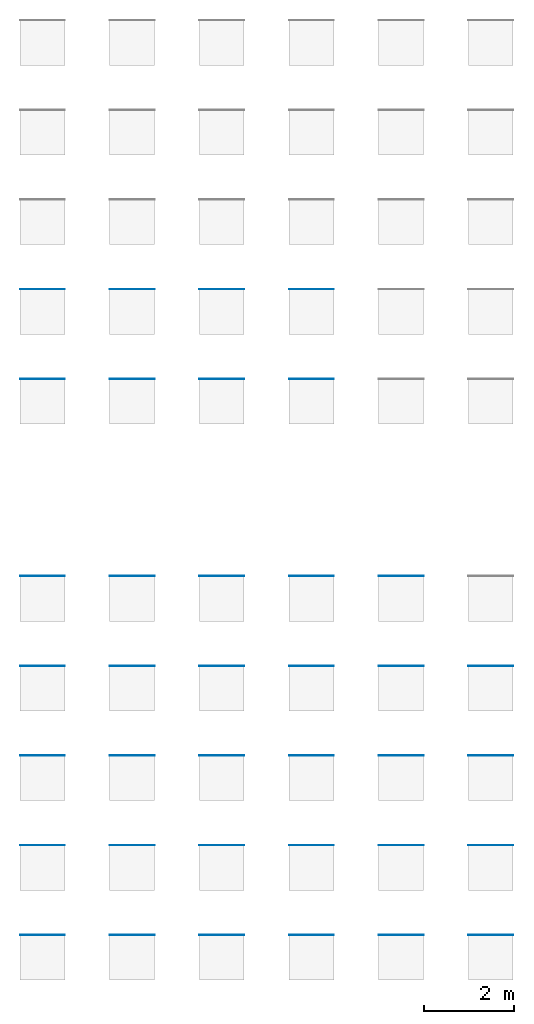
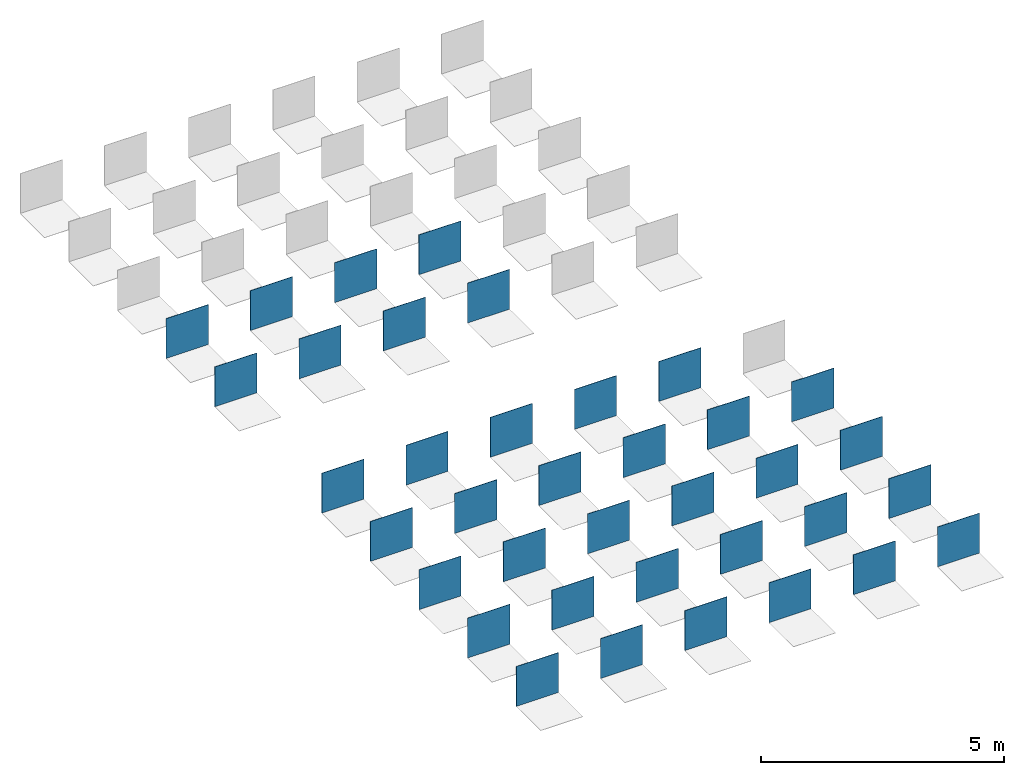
# One storey, part 1 of 4: 37 walls.
"""IFC2X3 building model written with IfcOpenShell, lengths in millimetres."""

from ifc_helpers import new_model, entity, si_unit, converted_unit, derived_unit, direction, frame, frame_2d, origin, place, context, subcontext, project, spatial, rectangle, extrude, material, layer, layer_set, layer_usage, type_object, element, save


model = new_model("IFC2X3")

# Units and contexts
model_context = context("Model", 3, precision=0.01, world=origin(), true_north=direction((6.12303176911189e-17, 1.0)))
body_context = subcontext(model_context, "Body", "Model", "MODEL_VIEW")
ifc_project = project(units=[si_unit("LENGTHUNIT", "METRE", prefix="MILLI"), si_unit("AREAUNIT", "SQUARE_METRE"), si_unit("VOLUMEUNIT", "CUBIC_METRE"), converted_unit("PLANEANGLEUNIT", "DEGREE", entity("IfcRatioMeasure", 0.0174532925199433), si_unit("PLANEANGLEUNIT", "RADIAN"), dimensions=[0, 0, 0, 0, 0, 0, 0]), si_unit("MASSUNIT", "GRAM", prefix="KILO"), derived_unit("MASSDENSITYUNIT", [(si_unit("MASSUNIT", "GRAM", prefix="KILO"), 1), (si_unit("LENGTHUNIT", "METRE"), -3)]), derived_unit("MOMENTOFINERTIAUNIT", [(si_unit("LENGTHUNIT", "METRE"), 4)]), si_unit("TIMEUNIT", "SECOND"), si_unit("FREQUENCYUNIT", "HERTZ"), si_unit("THERMODYNAMICTEMPERATUREUNIT", "DEGREE_CELSIUS"), derived_unit("THERMALTRANSMITTANCEUNIT", [(si_unit("MASSUNIT", "GRAM", prefix="KILO"), 1), (si_unit("THERMODYNAMICTEMPERATUREUNIT", "KELVIN"), -1), (si_unit("TIMEUNIT", "SECOND"), -3)]), derived_unit("VOLUMETRICFLOWRATEUNIT", [(si_unit("LENGTHUNIT", "METRE"), 3), (si_unit("TIMEUNIT", "SECOND"), -1)]), si_unit("ELECTRICCURRENTUNIT", "AMPERE"), si_unit("ELECTRICVOLTAGEUNIT", "VOLT"), si_unit("POWERUNIT", "WATT"), si_unit("FORCEUNIT", "NEWTON", prefix="KILO"), si_unit("ILLUMINANCEUNIT", "LUX"), si_unit("LUMINOUSFLUXUNIT", "LUMEN"), si_unit("LUMINOUSINTENSITYUNIT", "CANDELA"), derived_unit("USERDEFINED", [(si_unit("MASSUNIT", "GRAM", prefix="KILO"), -1), (si_unit("LENGTHUNIT", "METRE"), -2), (si_unit("TIMEUNIT", "SECOND"), 3), (si_unit("LUMINOUSFLUXUNIT", "LUMEN"), 1)]), derived_unit("LINEARVELOCITYUNIT", [(si_unit("LENGTHUNIT", "METRE"), 1), (si_unit("TIMEUNIT", "SECOND"), -1)]), si_unit("PRESSUREUNIT", "PASCAL"), derived_unit("USERDEFINED", [(si_unit("LENGTHUNIT", "METRE"), -2), (si_unit("MASSUNIT", "GRAM", prefix="KILO"), 1), (si_unit("TIMEUNIT", "SECOND"), -2)]), derived_unit("LINEARFORCEUNIT", [(si_unit("MASSUNIT", "GRAM", prefix="KILO"), 1), (si_unit("LENGTHUNIT", "METRE"), 1), (si_unit("TIMEUNIT", "SECOND"), -2), (si_unit("LENGTHUNIT", "METRE"), -1)]), derived_unit("PLANARFORCEUNIT", [(si_unit("MASSUNIT", "GRAM", prefix="KILO"), 1), (si_unit("LENGTHUNIT", "METRE"), 1), (si_unit("TIMEUNIT", "SECOND"), -2), (si_unit("LENGTHUNIT", "METRE"), -2)])], contexts=[model_context])

# Site, building, storey
site_placement = place(None, origin())
site = spatial("IfcSite", under=ifc_project, at=site_placement, Name="Default", CompositionType="ELEMENT")
building_placement = place(site_placement, origin())
building = spatial("IfcBuilding", under=site, at=building_placement, CompositionType="ELEMENT")
storey_placement = place(building_placement, origin())
storey = spatial("IfcBuildingStorey", under=building, at=storey_placement, Name="Level 1", CompositionType="ELEMENT", Elevation=0.0)

# Walls
ifc_material_1 = material(Name="REVIGRÉS-OMNISTONE-BASE-30x60-MATTRECT-BONE")
ifc_layer_1 = layer(ifc_material_1, 9.8)
ifc_layer_set_1 = layer_set([ifc_layer_1], Name="Basic Wall:REVIGRÉS-OMNISTONE-BASE-30X60-MATTRECT-BONE")
ifc_layer_usage_1 = layer_usage(ifc_layer_set_1, "AXIS2", "POSITIVE", -4.9)
wall_type_1 = type_object("IfcWallType", Name="Basic Wall:REVIGRÉS-OMNISTONE-BASE-30X60-MATTRECT-BONE", PredefinedType="STANDARD", material=ifc_layer_set_1)
wall_1_placement = place(storey_placement, frame((8.22388438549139, 10816.1034685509, 0.0)))
element("IfcWallStandardCase", 1, at=wall_1_placement, inside=storey, type_object=wall_type_1, material=ifc_layer_usage_1, Name="Basic Wall:REVIGRÉS-OMNISTONE-BASE-30X60-MATTRECT-BONE:2654", ObjectType="Basic Wall:REVIGRÉS-OMNISTONE-BASE-30X60-MATTRECT-BONE", context=body_context, shape_type="SweptSolid", body=[
    extrude(rectangle(XDim=1000.0, YDim=9.8000000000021, at=frame_2d((500.0, 5.41344746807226e-13), x_axis=(-1.0, 0.0))), origin(), (0.0, 0.0, 1.0), 1000.0),
])
ifc_material_2 = material(Name="REVIGRÉS-OMNISTONE-BASE-60x60-MATTRECT-BONE")
ifc_layer_2 = layer(ifc_material_2, 9.8)
ifc_layer_set_2 = layer_set([ifc_layer_2], Name="Basic Wall:REVIGRÉS-OMNISTONE-BASE-60X60-MATTRECT-BONE")
ifc_layer_usage_2 = layer_usage(ifc_layer_set_2, "AXIS2", "POSITIVE", -4.9)
wall_type_2 = type_object("IfcWallType", Name="Basic Wall:REVIGRÉS-OMNISTONE-BASE-60X60-MATTRECT-BONE", PredefinedType="STANDARD", material=ifc_layer_set_2)
wall_2_placement = place(storey_placement, frame((8.22388438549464, 12816.1034685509, 0.0)))
element("IfcWallStandardCase", 2, at=wall_2_placement, inside=storey, type_object=wall_type_2, material=ifc_layer_usage_2, Name="Basic Wall:REVIGRÉS-OMNISTONE-BASE-60X60-MATTRECT-BONE", ObjectType="Basic Wall:REVIGRÉS-OMNISTONE-BASE-60X60-MATTRECT-BONE", context=body_context, shape_type="SweptSolid", body=[
    extrude(rectangle(XDim=1000.0, YDim=9.8000000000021, at=frame_2d((500.0, 5.41344746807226e-13), x_axis=(-1.0, 0.0))), origin(), (0.0, 0.0, 1.0), 1000.0),
])
ifc_material_3 = material(Name="REVIGRÉS-OMNISTONE-BASE-30x60-SOFT-BONE")
ifc_layer_3 = layer(ifc_material_3, 9.8)
ifc_layer_set_3 = layer_set([ifc_layer_3], Name="Basic Wall:REVIGRÉS-OMNISTONE-BASE-30X60-SOFT-BONE")
ifc_layer_usage_3 = layer_usage(ifc_layer_set_3, "AXIS2", "POSITIVE", -4.9)
wall_type_3 = type_object("IfcWallType", Name="Basic Wall:REVIGRÉS-OMNISTONE-BASE-30X60-SOFT-BONE", PredefinedType="STANDARD", material=ifc_layer_set_3)
wall_3_placement = place(storey_placement, frame((2008.2238843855, 10816.1034685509, 0.0)))
element("IfcWallStandardCase", 3, at=wall_3_placement, inside=storey, type_object=wall_type_3, material=ifc_layer_usage_3, Name="Basic Wall:REVIGRÉS-OMNISTONE-BASE-30X60-SOFT-BONE", ObjectType="Basic Wall:REVIGRÉS-OMNISTONE-BASE-30X60-SOFT-BONE", context=body_context, shape_type="SweptSolid", body=[
    extrude(rectangle(XDim=1000.0, YDim=9.8000000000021, at=frame_2d((500.0, 5.41344746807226e-13), x_axis=(-1.0, 0.0))), origin(), (0.0, 0.0, 1.0), 1000.0),
])
ifc_material_4 = material(Name="REVIGRÉS-OMNISTONE-BASE-60x60-SOFT-BONE")
ifc_layer_4 = layer(ifc_material_4, 9.8)
ifc_layer_set_4 = layer_set([ifc_layer_4], Name="Basic Wall:REVIGRÉS-OMNISTONE-BASE-60X60-SOFT-BONE")
ifc_layer_usage_4 = layer_usage(ifc_layer_set_4, "AXIS2", "POSITIVE", -4.9)
wall_type_4 = type_object("IfcWallType", Name="Basic Wall:REVIGRÉS-OMNISTONE-BASE-60X60-SOFT-BONE", PredefinedType="STANDARD", material=ifc_layer_set_4)
wall_4_placement = place(storey_placement, frame((2008.22388438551, 12816.1034685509, 0.0)))
element("IfcWallStandardCase", 4, at=wall_4_placement, inside=storey, type_object=wall_type_4, material=ifc_layer_usage_4, Name="Basic Wall:REVIGRÉS-OMNISTONE-BASE-60X60-SOFT-BONE", ObjectType="Basic Wall:REVIGRÉS-OMNISTONE-BASE-60X60-SOFT-BONE", context=body_context, shape_type="SweptSolid", body=[
    extrude(rectangle(XDim=1000.0, YDim=9.8000000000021, at=frame_2d((500.0, 5.41344746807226e-13), x_axis=(-1.0, 0.0))), origin(), (0.0, 0.0, 1.0), 1000.0),
])
ifc_material_5 = material(Name="REVIGRÉS-OMNISTONE-BASE-30x60-MATTRECT-ICE")
ifc_layer_5 = layer(ifc_material_5, 9.8)
ifc_layer_set_5 = layer_set([ifc_layer_5], Name="Basic Wall:REVIGRÉS-OMNISTONE-BASE-30X60-MATTRECT-ICE")
ifc_layer_usage_5 = layer_usage(ifc_layer_set_5, "AXIS2", "POSITIVE", -4.9)
wall_type_5 = type_object("IfcWallType", Name="Basic Wall:REVIGRÉS-OMNISTONE-BASE-30X60-MATTRECT-ICE", PredefinedType="STANDARD", material=ifc_layer_set_5)
wall_5_placement = place(storey_placement, frame((4008.2238843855, 10816.1034685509, 0.0)))
element("IfcWallStandardCase", 5, at=wall_5_placement, inside=storey, type_object=wall_type_5, material=ifc_layer_usage_5, Name="Basic Wall:REVIGRÉS-OMNISTONE-BASE-30X60-MATTRECT-ICE", ObjectType="Basic Wall:REVIGRÉS-OMNISTONE-BASE-30X60-MATTRECT-ICE", context=body_context, shape_type="SweptSolid", body=[
    extrude(rectangle(XDim=1000.0, YDim=9.8000000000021, at=frame_2d((500.0, 5.41344746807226e-13), x_axis=(-1.0, 0.0))), origin(), (0.0, 0.0, 1.0), 1000.0),
])
ifc_material_6 = material(Name="REVIGRÉS-OMNISTONE-BASE-60x60-MATTRECT-ICE")
ifc_layer_6 = layer(ifc_material_6, 9.8)
ifc_layer_set_6 = layer_set([ifc_layer_6], Name="Basic Wall:REVIGRÉS-OMNISTONE-BASE-60X60-MATTRECT-ICE")
ifc_layer_usage_6 = layer_usage(ifc_layer_set_6, "AXIS2", "POSITIVE", -4.9)
wall_type_6 = type_object("IfcWallType", Name="Basic Wall:REVIGRÉS-OMNISTONE-BASE-60X60-MATTRECT-ICE", PredefinedType="STANDARD", material=ifc_layer_set_6)
wall_6_placement = place(storey_placement, frame((4008.22388438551, 12816.1034685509, 0.0)))
element("IfcWallStandardCase", 6, at=wall_6_placement, inside=storey, type_object=wall_type_6, material=ifc_layer_usage_6, Name="Basic Wall:REVIGRÉS-OMNISTONE-BASE-60X60-MATTRECT-ICE", ObjectType="Basic Wall:REVIGRÉS-OMNISTONE-BASE-60X60-MATTRECT-ICE", context=body_context, shape_type="SweptSolid", body=[
    extrude(rectangle(XDim=1000.0, YDim=9.8000000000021, at=frame_2d((500.0, 5.41344746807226e-13), x_axis=(-1.0, 0.0))), origin(), (0.0, 0.0, 1.0), 1000.0),
])
ifc_material_7 = material(Name="REVIGRÉS-OMNISTONE-BASE-30x60-SOFT-ICE")
ifc_layer_7 = layer(ifc_material_7, 9.8)
ifc_layer_set_7 = layer_set([ifc_layer_7], Name="Basic Wall:REVIGRÉS-OMNISTONE-BASE-30X60-SOFT-ICE")
ifc_layer_usage_7 = layer_usage(ifc_layer_set_7, "AXIS2", "POSITIVE", -4.9)
wall_type_7 = type_object("IfcWallType", Name="Basic Wall:REVIGRÉS-OMNISTONE-BASE-30X60-SOFT-ICE", PredefinedType="STANDARD", material=ifc_layer_set_7)
wall_7_placement = place(storey_placement, frame((6008.22388438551, 10816.1034685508, 0.0)))
element("IfcWallStandardCase", 7, at=wall_7_placement, inside=storey, type_object=wall_type_7, material=ifc_layer_usage_7, Name="Basic Wall:REVIGRÉS-OMNISTONE-BASE-30X60-SOFT-ICE", ObjectType="Basic Wall:REVIGRÉS-OMNISTONE-BASE-30X60-SOFT-ICE", context=body_context, shape_type="SweptSolid", body=[
    extrude(rectangle(XDim=1000.0, YDim=9.8000000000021, at=frame_2d((500.0, 5.41344746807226e-13), x_axis=(-1.0, 0.0))), origin(), (0.0, 0.0, 1.0), 1000.0),
])
ifc_material_8 = material(Name="REVIGRÉS-OMNISTONE-BASE-60x60-SOFT-ICE")
ifc_layer_8 = layer(ifc_material_8, 9.8)
ifc_layer_set_8 = layer_set([ifc_layer_8], Name="Basic Wall:REVIGRÉS-OMNISTONE-BASE-60X60-SOFT-ICE")
ifc_layer_usage_8 = layer_usage(ifc_layer_set_8, "AXIS2", "POSITIVE", -4.9)
wall_type_8 = type_object("IfcWallType", Name="Basic Wall:REVIGRÉS-OMNISTONE-BASE-60X60-SOFT-ICE", PredefinedType="STANDARD", material=ifc_layer_set_8)
wall_8_placement = place(storey_placement, frame((6008.22388438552, 12816.1034685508, 0.0)))
element("IfcWallStandardCase", 8, at=wall_8_placement, inside=storey, type_object=wall_type_8, material=ifc_layer_usage_8, Name="Basic Wall:REVIGRÉS-OMNISTONE-BASE-60X60-SOFT-ICE", ObjectType="Basic Wall:REVIGRÉS-OMNISTONE-BASE-60X60-SOFT-ICE", context=body_context, shape_type="SweptSolid", body=[
    extrude(rectangle(XDim=1000.0, YDim=9.8000000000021, at=frame_2d((500.0, 5.41344746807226e-13), x_axis=(-1.0, 0.0))), origin(), (0.0, 0.0, 1.0), 1000.0),
])
ifc_material_9 = material(Name="REVIGRÉS-OMNISTONE-BASE-30x60-MATTRECT-JET")
ifc_layer_9 = layer(ifc_material_9, 9.8)
ifc_layer_set_9 = layer_set([ifc_layer_9], Name="Basic Wall:REVIGRÉS-OMNISTONE-BASE-30X60-MATTRECT-JET")
ifc_layer_usage_9 = layer_usage(ifc_layer_set_9, "AXIS2", "POSITIVE", -4.9)
wall_type_9 = type_object("IfcWallType", Name="Basic Wall:REVIGRÉS-OMNISTONE-BASE-30X60-MATTRECT-JET", PredefinedType="STANDARD", material=ifc_layer_set_9)
wall_9_placement = place(storey_placement, frame((8.22388438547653, -1583.89653144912, 0.0)))
element("IfcWallStandardCase", 9, at=wall_9_placement, inside=storey, type_object=wall_type_9, material=ifc_layer_usage_9, Name="Basic Wall:REVIGRÉS-OMNISTONE-BASE-30X60-MATTRECT-JET", ObjectType="Basic Wall:REVIGRÉS-OMNISTONE-BASE-30X60-MATTRECT-JET", context=body_context, shape_type="SweptSolid", body=[
    extrude(rectangle(XDim=1000.0, YDim=9.79999999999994, at=frame_2d((500.0, 0.0), x_axis=(-1.0, 0.0))), origin(), (0.0, 0.0, 1.0), 1000.0),
])
ifc_material_10 = material(Name="REVIGRÉS-OMNISTONE-BASE-60x60-MATTRECT-JET")
ifc_layer_10 = layer(ifc_material_10, 9.8)
ifc_layer_set_10 = layer_set([ifc_layer_10], Name="Basic Wall:REVIGRÉS-OMNISTONE-BASE-60X60-MATTRECT-JET")
ifc_layer_usage_10 = layer_usage(ifc_layer_set_10, "AXIS2", "POSITIVE", -4.9)
wall_type_10 = type_object("IfcWallType", Name="Basic Wall:REVIGRÉS-OMNISTONE-BASE-60X60-MATTRECT-JET", PredefinedType="STANDARD", material=ifc_layer_set_10)
wall_10_placement = place(storey_placement, frame((8.22388438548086, 416.103468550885, 0.0)))
element("IfcWallStandardCase", 10, at=wall_10_placement, inside=storey, type_object=wall_type_10, material=ifc_layer_usage_10, Name="Basic Wall:REVIGRÉS-OMNISTONE-BASE-60X60-MATTRECT-JET", ObjectType="Basic Wall:REVIGRÉS-OMNISTONE-BASE-60X60-MATTRECT-JET", context=body_context, shape_type="SweptSolid", body=[
    extrude(rectangle(XDim=1000.0, YDim=9.79999999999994, at=frame_2d((500.0, 0.0), x_axis=(-1.0, 0.0))), origin(), (0.0, 0.0, 1.0), 1000.0),
])
ifc_material_11 = material(Name="REVIGRÉS-OMNISTONE-BASE-60x120-MATTRECT-JET")
ifc_layer_11 = layer(ifc_material_11, 9.8)
ifc_layer_set_11 = layer_set([ifc_layer_11], Name="Basic Wall:REVIGRÉS-OMNISTONE-BASE-60X120-MATTRECT-JET")
ifc_layer_usage_11 = layer_usage(ifc_layer_set_11, "AXIS2", "POSITIVE", -4.9)
wall_type_11 = type_object("IfcWallType", Name="Basic Wall:REVIGRÉS-OMNISTONE-BASE-60X120-MATTRECT-JET", PredefinedType="STANDARD", material=ifc_layer_set_11)
wall_11_placement = place(storey_placement, frame((8.22388438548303, 2416.10346855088, 0.0)))
element("IfcWallStandardCase", 11, at=wall_11_placement, inside=storey, type_object=wall_type_11, material=ifc_layer_usage_11, Name="Basic Wall:REVIGRÉS-OMNISTONE-BASE-60X120-MATTRECT-JET", ObjectType="Basic Wall:REVIGRÉS-OMNISTONE-BASE-60X120-MATTRECT-JET", context=body_context, shape_type="SweptSolid", body=[
    extrude(rectangle(XDim=1000.0, YDim=9.79999999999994, at=frame_2d((500.0, 0.0), x_axis=(-1.0, 0.0))), origin(), (0.0, 0.0, 1.0), 1000.0),
])
ifc_material_12 = material(Name="REVIGRÉS-OMNISTONE-BASE-45x90-MATTRECT-JET")
ifc_layer_12 = layer(ifc_material_12, 10.5)
ifc_layer_set_12 = layer_set([ifc_layer_12], Name="Basic Wall:REVIGRÉS-OMNISTONE-BASE-45X90-MATTRECT-JET")
ifc_layer_usage_12 = layer_usage(ifc_layer_set_12, "AXIS2", "POSITIVE", -5.25)
wall_type_12 = type_object("IfcWallType", Name="Basic Wall:REVIGRÉS-OMNISTONE-BASE-45X90-MATTRECT-JET", PredefinedType="STANDARD", material=ifc_layer_set_12)
wall_12_placement = place(storey_placement, frame((8.22388438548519, 4416.45346855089, 0.0)))
element("IfcWallStandardCase", 12, at=wall_12_placement, inside=storey, type_object=wall_type_12, material=ifc_layer_usage_12, Name="Basic Wall:REVIGRÉS-OMNISTONE-BASE-45X90-MATTRECT-JET", ObjectType="Basic Wall:REVIGRÉS-OMNISTONE-BASE-45X90-MATTRECT-JET", context=body_context, shape_type="SweptSolid", body=[
    extrude(rectangle(XDim=1000.0, YDim=10.4999999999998, at=frame_2d((500.0, 0.0), x_axis=(-1.0, 0.0))), origin(), (0.0, 0.0, 1.0), 1000.0),
])
ifc_material_13 = material(Name="REVIGRÉS-OMNISTONE-BASE-90x90-MATTRECT-JET")
ifc_layer_13 = layer(ifc_material_13, 10.5)
ifc_layer_set_13 = layer_set([ifc_layer_13], Name="Basic Wall:REVIGRÉS-OMNISTONE-BASE-90X90-MATTRECT-JET")
ifc_layer_usage_13 = layer_usage(ifc_layer_set_13, "AXIS2", "POSITIVE", -5.25)
wall_type_13 = type_object("IfcWallType", Name="Basic Wall:REVIGRÉS-OMNISTONE-BASE-90X90-MATTRECT-JET", PredefinedType="STANDARD", material=ifc_layer_set_13)
wall_13_placement = place(storey_placement, frame((8.22388438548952, 6416.45346855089, 0.0)))
element("IfcWallStandardCase", 13, at=wall_13_placement, inside=storey, type_object=wall_type_13, material=ifc_layer_usage_13, Name="Basic Wall:REVIGRÉS-OMNISTONE-BASE-90X90-MATTRECT-JET", ObjectType="Basic Wall:REVIGRÉS-OMNISTONE-BASE-90X90-MATTRECT-JET", context=body_context, shape_type="SweptSolid", body=[
    extrude(rectangle(XDim=1000.0, YDim=10.4999999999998, at=frame_2d((500.0, 0.0), x_axis=(-1.0, 0.0))), origin(), (0.0, 0.0, 1.0), 1000.0),
])
ifc_material_14 = material(Name="REVIGRÉS-OMNISTONE-BASE-30x60-SOFT-JET")
ifc_layer_14 = layer(ifc_material_14, 9.8)
ifc_layer_set_14 = layer_set([ifc_layer_14], Name="Basic Wall:REVIGRÉS-OMNISTONE-BASE-30X60-SOFT-JET")
ifc_layer_usage_14 = layer_usage(ifc_layer_set_14, "AXIS2", "POSITIVE", -4.9)
wall_type_14 = type_object("IfcWallType", Name="Basic Wall:REVIGRÉS-OMNISTONE-BASE-30X60-SOFT-JET", PredefinedType="STANDARD", material=ifc_layer_set_14)
wall_14_placement = place(storey_placement, frame((2008.22388438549, -1583.89653144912, 0.0)))
element("IfcWallStandardCase", 14, at=wall_14_placement, inside=storey, type_object=wall_type_14, material=ifc_layer_usage_14, Name="Basic Wall:REVIGRÉS-OMNISTONE-BASE-30X60-SOFT-JET", ObjectType="Basic Wall:REVIGRÉS-OMNISTONE-BASE-30X60-SOFT-JET", context=body_context, shape_type="SweptSolid", body=[
    extrude(rectangle(XDim=1000.0, YDim=9.79999999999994, at=frame_2d((500.0, 0.0), x_axis=(-1.0, 0.0))), origin(), (0.0, 0.0, 1.0), 1000.0),
])
ifc_material_15 = material(Name="REVIGRÉS-OMNISTONE-BASE-60x60-SOFT-JET")
ifc_layer_15 = layer(ifc_material_15, 9.8)
ifc_layer_set_15 = layer_set([ifc_layer_15], Name="Basic Wall:REVIGRÉS-OMNISTONE-BASE-60X60-SOFT-JET")
ifc_layer_usage_15 = layer_usage(ifc_layer_set_15, "AXIS2", "POSITIVE", -4.9)
wall_type_15 = type_object("IfcWallType", Name="Basic Wall:REVIGRÉS-OMNISTONE-BASE-60X60-SOFT-JET", PredefinedType="STANDARD", material=ifc_layer_set_15)
wall_15_placement = place(storey_placement, frame((2008.22388438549, 416.103468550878, 0.0)))
element("IfcWallStandardCase", 15, at=wall_15_placement, inside=storey, type_object=wall_type_15, material=ifc_layer_usage_15, Name="Basic Wall:REVIGRÉS-OMNISTONE-BASE-60X60-SOFT-JET", ObjectType="Basic Wall:REVIGRÉS-OMNISTONE-BASE-60X60-SOFT-JET", context=body_context, shape_type="SweptSolid", body=[
    extrude(rectangle(XDim=1000.0, YDim=9.79999999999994, at=frame_2d((500.0, 0.0), x_axis=(-1.0, 0.0))), origin(), (0.0, 0.0, 1.0), 1000.0),
])
ifc_material_16 = material(Name="REVIGRÉS-OMNISTONE-BASE-60x120-SOFT-JET")
ifc_layer_16 = layer(ifc_material_16, 9.8)
ifc_layer_set_16 = layer_set([ifc_layer_16], Name="Basic Wall:REVIGRÉS-OMNISTONE-BASE-60X120-SOFT-JET")
ifc_layer_usage_16 = layer_usage(ifc_layer_set_16, "AXIS2", "POSITIVE", -4.9)
wall_type_16 = type_object("IfcWallType", Name="Basic Wall:REVIGRÉS-OMNISTONE-BASE-60X120-SOFT-JET", PredefinedType="STANDARD", material=ifc_layer_set_16)
wall_16_placement = place(storey_placement, frame((2008.2238843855, 2416.10346855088, 0.0)))
element("IfcWallStandardCase", 16, at=wall_16_placement, inside=storey, type_object=wall_type_16, material=ifc_layer_usage_16, Name="Basic Wall:REVIGRÉS-OMNISTONE-BASE-60X120-SOFT-JET", ObjectType="Basic Wall:REVIGRÉS-OMNISTONE-BASE-60X120-SOFT-JET", context=body_context, shape_type="SweptSolid", body=[
    extrude(rectangle(XDim=1000.0, YDim=9.79999999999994, at=frame_2d((500.0, 0.0), x_axis=(-1.0, 0.0))), origin(), (0.0, 0.0, 1.0), 1000.0),
])
ifc_material_17 = material(Name="REVIGRÉS-OMNISTONE-BASE-45x90-SOFT-JET")
ifc_layer_17 = layer(ifc_material_17, 10.5)
ifc_layer_set_17 = layer_set([ifc_layer_17], Name="Basic Wall:REVIGRÉS-OMNISTONE-BASE-45X90-SOFT-JET")
ifc_layer_usage_17 = layer_usage(ifc_layer_set_17, "AXIS2", "POSITIVE", -5.25)
wall_type_17 = type_object("IfcWallType", Name="Basic Wall:REVIGRÉS-OMNISTONE-BASE-45X90-SOFT-JET", PredefinedType="STANDARD", material=ifc_layer_set_17)
wall_17_placement = place(storey_placement, frame((2008.2238843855, 4416.45346855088, 0.0)))
element("IfcWallStandardCase", 17, at=wall_17_placement, inside=storey, type_object=wall_type_17, material=ifc_layer_usage_17, Name="Basic Wall:REVIGRÉS-OMNISTONE-BASE-45X90-SOFT-JET", ObjectType="Basic Wall:REVIGRÉS-OMNISTONE-BASE-45X90-SOFT-JET", context=body_context, shape_type="SweptSolid", body=[
    extrude(rectangle(XDim=1000.0, YDim=10.4999999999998, at=frame_2d((500.0, 0.0), x_axis=(-1.0, 0.0))), origin(), (0.0, 0.0, 1.0), 1000.0),
])
ifc_material_18 = material(Name="REVIGRÉS-OMNISTONE-BASE-90x90-SOFT-JET")
ifc_layer_18 = layer(ifc_material_18, 10.5)
ifc_layer_set_18 = layer_set([ifc_layer_18], Name="Basic Wall:REVIGRÉS-OMNISTONE-BASE-90X90-SOFT-JET")
ifc_layer_usage_18 = layer_usage(ifc_layer_set_18, "AXIS2", "POSITIVE", -5.25)
wall_type_18 = type_object("IfcWallType", Name="Basic Wall:REVIGRÉS-OMNISTONE-BASE-90X90-SOFT-JET", PredefinedType="STANDARD", material=ifc_layer_set_18)
wall_18_placement = place(storey_placement, frame((2008.2238843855, 6416.45346855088, 0.0)))
element("IfcWallStandardCase", 18, at=wall_18_placement, inside=storey, type_object=wall_type_18, material=ifc_layer_usage_18, Name="Basic Wall:REVIGRÉS-OMNISTONE-BASE-90X90-SOFT-JET", ObjectType="Basic Wall:REVIGRÉS-OMNISTONE-BASE-90X90-SOFT-JET", context=body_context, shape_type="SweptSolid", body=[
    extrude(rectangle(XDim=1000.0, YDim=10.4999999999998, at=frame_2d((500.0, 0.0), x_axis=(-1.0, 0.0))), origin(), (0.0, 0.0, 1.0), 1000.0),
])
ifc_material_19 = material(Name="REVIGRÉS-OMNISTONE-BASE-30x60-MATTRECT-PLATINA")
ifc_layer_19 = layer(ifc_material_19, 9.8)
ifc_layer_set_19 = layer_set([ifc_layer_19], Name="Basic Wall:REVIGRÉS-OMNISTONE-BASE-30X60-MATTRECT-PLATINA")
ifc_layer_usage_19 = layer_usage(ifc_layer_set_19, "AXIS2", "POSITIVE", -4.9)
wall_type_19 = type_object("IfcWallType", Name="Basic Wall:REVIGRÉS-OMNISTONE-BASE-30X60-MATTRECT-PLATINA", PredefinedType="STANDARD", material=ifc_layer_set_19)
wall_19_placement = place(storey_placement, frame((4008.22388438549, -1583.89653144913, 0.0)))
element("IfcWallStandardCase", 19, at=wall_19_placement, inside=storey, type_object=wall_type_19, material=ifc_layer_usage_19, Name="Basic Wall:REVIGRÉS-OMNISTONE-BASE-30X60-MATTRECT-PLATINA", ObjectType="Basic Wall:REVIGRÉS-OMNISTONE-BASE-30X60-MATTRECT-PLATINA", context=body_context, shape_type="SweptSolid", body=[
    extrude(rectangle(XDim=1000.0, YDim=9.79999999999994, at=frame_2d((500.0, 0.0), x_axis=(-1.0, 0.0))), origin(), (0.0, 0.0, 1.0), 1000.0),
])
ifc_material_20 = material(Name="REVIGRÉS-OMNISTONE-BASE-60x60-MATTRECT-PLATINA")
ifc_layer_20 = layer(ifc_material_20, 9.8)
ifc_layer_set_20 = layer_set([ifc_layer_20], Name="Basic Wall:REVIGRÉS-OMNISTONE-BASE-60X60-MATTRECT-PLATINA")
ifc_layer_usage_20 = layer_usage(ifc_layer_set_20, "AXIS2", "POSITIVE", -4.9)
wall_type_20 = type_object("IfcWallType", Name="Basic Wall:REVIGRÉS-OMNISTONE-BASE-60X60-MATTRECT-PLATINA", PredefinedType="STANDARD", material=ifc_layer_set_20)
wall_20_placement = place(storey_placement, frame((4008.2238843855, 416.103468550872, 0.0)))
element("IfcWallStandardCase", 20, at=wall_20_placement, inside=storey, type_object=wall_type_20, material=ifc_layer_usage_20, Name="Basic Wall:REVIGRÉS-OMNISTONE-BASE-60X60-MATTRECT-PLATINA", ObjectType="Basic Wall:REVIGRÉS-OMNISTONE-BASE-60X60-MATTRECT-PLATINA", context=body_context, shape_type="SweptSolid", body=[
    extrude(rectangle(XDim=1000.0, YDim=9.79999999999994, at=frame_2d((500.0, 0.0), x_axis=(-1.0, 0.0))), origin(), (0.0, 0.0, 1.0), 1000.0),
])
ifc_material_21 = material(Name="REVIGRÉS-OMNISTONE-BASE-60x120-MATTRECT-PLATINA")
ifc_layer_21 = layer(ifc_material_21, 9.8)
ifc_layer_set_21 = layer_set([ifc_layer_21], Name="Basic Wall:REVIGRÉS-OMNISTONE-BASE-60X120-MATTRECT-PLATINA")
ifc_layer_usage_21 = layer_usage(ifc_layer_set_21, "AXIS2", "POSITIVE", -4.9)
wall_type_21 = type_object("IfcWallType", Name="Basic Wall:REVIGRÉS-OMNISTONE-BASE-60X120-MATTRECT-PLATINA", PredefinedType="STANDARD", material=ifc_layer_set_21)
wall_21_placement = place(storey_placement, frame((4008.2238843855, 2416.10346855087, 0.0)))
element("IfcWallStandardCase", 21, at=wall_21_placement, inside=storey, type_object=wall_type_21, material=ifc_layer_usage_21, Name="Basic Wall:REVIGRÉS-OMNISTONE-BASE-60X120-MATTRECT-PLATINA", ObjectType="Basic Wall:REVIGRÉS-OMNISTONE-BASE-60X120-MATTRECT-PLATINA", context=body_context, shape_type="SweptSolid", body=[
    extrude(rectangle(XDim=1000.0, YDim=9.79999999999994, at=frame_2d((500.0, 0.0), x_axis=(-1.0, 0.0))), origin(), (0.0, 0.0, 1.0), 1000.0),
])
ifc_material_22 = material(Name="REVIGRÉS-OMNISTONE-BASE-45x90-MATTRECT-PLATINA")
ifc_layer_22 = layer(ifc_material_22, 10.5)
ifc_layer_set_22 = layer_set([ifc_layer_22], Name="Basic Wall:REVIGRÉS-OMNISTONE-BASE-45X90-MATTRECT-PLATINA")
ifc_layer_usage_22 = layer_usage(ifc_layer_set_22, "AXIS2", "POSITIVE", -5.25)
wall_type_22 = type_object("IfcWallType", Name="Basic Wall:REVIGRÉS-OMNISTONE-BASE-45X90-MATTRECT-PLATINA", PredefinedType="STANDARD", material=ifc_layer_set_22)
wall_22_placement = place(storey_placement, frame((4008.2238843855, 4416.45346855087, 0.0)))
element("IfcWallStandardCase", 22, at=wall_22_placement, inside=storey, type_object=wall_type_22, material=ifc_layer_usage_22, Name="Basic Wall:REVIGRÉS-OMNISTONE-BASE-45X90-MATTRECT-PLATINA", ObjectType="Basic Wall:REVIGRÉS-OMNISTONE-BASE-45X90-MATTRECT-PLATINA", context=body_context, shape_type="SweptSolid", body=[
    extrude(rectangle(XDim=1000.0, YDim=10.4999999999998, at=frame_2d((500.0, 0.0), x_axis=(-1.0, 0.0))), origin(), (0.0, 0.0, 1.0), 1000.0),
])
ifc_material_23 = material(Name="REVIGRÉS-OMNISTONE-BASE-90x90-MATTRECT-PLATINA")
ifc_layer_23 = layer(ifc_material_23, 10.5)
ifc_layer_set_23 = layer_set([ifc_layer_23], Name="Basic Wall:REVIGRÉS-OMNISTONE-BASE-90X90-MATTRECT-PLATINA")
ifc_layer_usage_23 = layer_usage(ifc_layer_set_23, "AXIS2", "POSITIVE", -5.25)
wall_type_23 = type_object("IfcWallType", Name="Basic Wall:REVIGRÉS-OMNISTONE-BASE-90X90-MATTRECT-PLATINA", PredefinedType="STANDARD", material=ifc_layer_set_23)
wall_23_placement = place(storey_placement, frame((4008.22388438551, 6416.45346855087, 0.0)))
element("IfcWallStandardCase", 23, at=wall_23_placement, inside=storey, type_object=wall_type_23, material=ifc_layer_usage_23, Name="Basic Wall:REVIGRÉS-OMNISTONE-BASE-90X90-MATTRECT-PLATINA", ObjectType="Basic Wall:REVIGRÉS-OMNISTONE-BASE-90X90-MATTRECT-PLATINA", context=body_context, shape_type="SweptSolid", body=[
    extrude(rectangle(XDim=1000.0, YDim=10.4999999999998, at=frame_2d((500.0, 0.0), x_axis=(-1.0, 0.0))), origin(), (0.0, 0.0, 1.0), 1000.0),
])
ifc_material_24 = material(Name="REVIGRÉS-OMNISTONE-BASE-30x60-SOFT-PLATINA")
ifc_layer_24 = layer(ifc_material_24, 9.8)
ifc_layer_set_24 = layer_set([ifc_layer_24], Name="Basic Wall:REVIGRÉS-OMNISTONE-BASE-30X60-SOFT-PLATINA")
ifc_layer_usage_24 = layer_usage(ifc_layer_set_24, "AXIS2", "POSITIVE", -4.9)
wall_type_24 = type_object("IfcWallType", Name="Basic Wall:REVIGRÉS-OMNISTONE-BASE-30X60-SOFT-PLATINA", PredefinedType="STANDARD", material=ifc_layer_set_24)
wall_24_placement = place(storey_placement, frame((6008.2238843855, -1583.89653144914, 0.0)))
element("IfcWallStandardCase", 24, at=wall_24_placement, inside=storey, type_object=wall_type_24, material=ifc_layer_usage_24, Name="Basic Wall:REVIGRÉS-OMNISTONE-BASE-30X60-SOFT-PLATINA", ObjectType="Basic Wall:REVIGRÉS-OMNISTONE-BASE-30X60-SOFT-PLATINA", context=body_context, shape_type="SweptSolid", body=[
    extrude(rectangle(XDim=1000.0, YDim=9.79999999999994, at=frame_2d((500.0, 0.0), x_axis=(-1.0, 0.0))), origin(), (0.0, 0.0, 1.0), 1000.0),
])
ifc_material_25 = material(Name="REVIGRÉS-OMNISTONE-BASE-60x60-SOFT-PLATINA")
ifc_layer_25 = layer(ifc_material_25, 9.8)
ifc_layer_set_25 = layer_set([ifc_layer_25], Name="Basic Wall:REVIGRÉS-OMNISTONE-BASE-60X60-SOFT-PLATINA")
ifc_layer_usage_25 = layer_usage(ifc_layer_set_25, "AXIS2", "POSITIVE", -4.9)
wall_type_25 = type_object("IfcWallType", Name="Basic Wall:REVIGRÉS-OMNISTONE-BASE-60X60-SOFT-PLATINA", PredefinedType="STANDARD", material=ifc_layer_set_25)
wall_25_placement = place(storey_placement, frame((6008.2238843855, 416.103468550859, 0.0)))
element("IfcWallStandardCase", 25, at=wall_25_placement, inside=storey, type_object=wall_type_25, material=ifc_layer_usage_25, Name="Basic Wall:REVIGRÉS-OMNISTONE-BASE-60X60-SOFT-PLATINA", ObjectType="Basic Wall:REVIGRÉS-OMNISTONE-BASE-60X60-SOFT-PLATINA", context=body_context, shape_type="SweptSolid", body=[
    extrude(rectangle(XDim=1000.0, YDim=9.79999999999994, at=frame_2d((500.0, 0.0), x_axis=(-1.0, 0.0))), origin(), (0.0, 0.0, 1.0), 1000.0),
])
ifc_material_26 = material(Name="REVIGRÉS-OMNISTONE-BASE-60x120-SOFT-PLATINA")
ifc_layer_26 = layer(ifc_material_26, 9.8)
ifc_layer_set_26 = layer_set([ifc_layer_26], Name="Basic Wall:REVIGRÉS-OMNISTONE-BASE-60X120-SOFT-PLATINA")
ifc_layer_usage_26 = layer_usage(ifc_layer_set_26, "AXIS2", "POSITIVE", -4.9)
wall_type_26 = type_object("IfcWallType", Name="Basic Wall:REVIGRÉS-OMNISTONE-BASE-60X120-SOFT-PLATINA", PredefinedType="STANDARD", material=ifc_layer_set_26)
wall_26_placement = place(storey_placement, frame((6008.22388438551, 2416.10346855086, 0.0)))
element("IfcWallStandardCase", 26, at=wall_26_placement, inside=storey, type_object=wall_type_26, material=ifc_layer_usage_26, Name="Basic Wall:REVIGRÉS-OMNISTONE-BASE-60X120-SOFT-PLATINA", ObjectType="Basic Wall:REVIGRÉS-OMNISTONE-BASE-60X120-SOFT-PLATINA", context=body_context, shape_type="SweptSolid", body=[
    extrude(rectangle(XDim=1000.0, YDim=9.79999999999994, at=frame_2d((500.0, 0.0), x_axis=(-1.0, 0.0))), origin(), (0.0, 0.0, 1.0), 1000.0),
])
ifc_material_27 = material(Name="REVIGRÉS-OMNISTONE-BASE-45x90-SOFT-PLATINA")
ifc_layer_27 = layer(ifc_material_27, 10.5)
ifc_layer_set_27 = layer_set([ifc_layer_27], Name="Basic Wall:REVIGRÉS-OMNISTONE-BASE-45X90-SOFT-PLATINA")
ifc_layer_usage_27 = layer_usage(ifc_layer_set_27, "AXIS2", "POSITIVE", -5.25)
wall_type_27 = type_object("IfcWallType", Name="Basic Wall:REVIGRÉS-OMNISTONE-BASE-45X90-SOFT-PLATINA", PredefinedType="STANDARD", material=ifc_layer_set_27)
wall_27_placement = place(storey_placement, frame((6008.22388438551, 4416.45346855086, 0.0)))
element("IfcWallStandardCase", 27, at=wall_27_placement, inside=storey, type_object=wall_type_27, material=ifc_layer_usage_27, Name="Basic Wall:REVIGRÉS-OMNISTONE-BASE-45X90-SOFT-PLATINA", ObjectType="Basic Wall:REVIGRÉS-OMNISTONE-BASE-45X90-SOFT-PLATINA", context=body_context, shape_type="SweptSolid", body=[
    extrude(rectangle(XDim=1000.0, YDim=10.4999999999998, at=frame_2d((500.0, 0.0), x_axis=(-1.0, 0.0))), origin(), (0.0, 0.0, 1.0), 1000.0),
])
ifc_material_28 = material(Name="REVIGRÉS-OMNISTONE-BASE-90x90-SOFT-PLATINA")
ifc_layer_28 = layer(ifc_material_28, 10.5)
ifc_layer_set_28 = layer_set([ifc_layer_28], Name="Basic Wall:REVIGRÉS-OMNISTONE-BASE-90X90-SOFT-PLATINA")
ifc_layer_usage_28 = layer_usage(ifc_layer_set_28, "AXIS2", "POSITIVE", -5.25)
wall_type_28 = type_object("IfcWallType", Name="Basic Wall:REVIGRÉS-OMNISTONE-BASE-90X90-SOFT-PLATINA", PredefinedType="STANDARD", material=ifc_layer_set_28)
wall_28_placement = place(storey_placement, frame((6008.22388438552, 6416.45346855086, 0.0)))
element("IfcWallStandardCase", 28, at=wall_28_placement, inside=storey, type_object=wall_type_28, material=ifc_layer_usage_28, Name="Basic Wall:REVIGRÉS-OMNISTONE-BASE-90X90-SOFT-PLATINA", ObjectType="Basic Wall:REVIGRÉS-OMNISTONE-BASE-90X90-SOFT-PLATINA", context=body_context, shape_type="SweptSolid", body=[
    extrude(rectangle(XDim=1000.0, YDim=10.4999999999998, at=frame_2d((500.0, 0.0), x_axis=(-1.0, 0.0))), origin(), (0.0, 0.0, 1.0), 1000.0),
])
ifc_material_29 = material(Name="REVIGRÉS-OMNISTONE-BASE-30x60-MATTRECT-ROPE")
ifc_layer_29 = layer(ifc_material_29, 9.8)
ifc_layer_set_29 = layer_set([ifc_layer_29], Name="Basic Wall:REVIGRÉS-OMNISTONE-BASE-30X60-MATTRECT-ROPE")
ifc_layer_usage_29 = layer_usage(ifc_layer_set_29, "AXIS2", "POSITIVE", -4.9)
wall_type_29 = type_object("IfcWallType", Name="Basic Wall:REVIGRÉS-OMNISTONE-BASE-30X60-MATTRECT-ROPE", PredefinedType="STANDARD", material=ifc_layer_set_29)
wall_29_placement = place(storey_placement, frame((8008.22388438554, -1583.89653144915, 0.0)))
element("IfcWallStandardCase", 29, at=wall_29_placement, inside=storey, type_object=wall_type_29, material=ifc_layer_usage_29, Name="Basic Wall:REVIGRÉS-OMNISTONE-BASE-30X60-MATTRECT-ROPE", ObjectType="Basic Wall:REVIGRÉS-OMNISTONE-BASE-30X60-MATTRECT-ROPE", context=body_context, shape_type="SweptSolid", body=[
    extrude(rectangle(XDim=1000.0, YDim=9.79999999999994, at=frame_2d((500.0, 0.0), x_axis=(-1.0, 0.0))), origin(), (0.0, 0.0, 1.0), 1000.0),
])
ifc_material_30 = material(Name="REVIGRÉS-OMNISTONE-BASE-60x60-MATTRECT-ROPE")
ifc_layer_30 = layer(ifc_material_30, 9.8)
ifc_layer_set_30 = layer_set([ifc_layer_30], Name="Basic Wall:REVIGRÉS-OMNISTONE-BASE-60X60-MATTRECT-ROPE")
ifc_layer_usage_30 = layer_usage(ifc_layer_set_30, "AXIS2", "POSITIVE", -4.9)
wall_type_30 = type_object("IfcWallType", Name="Basic Wall:REVIGRÉS-OMNISTONE-BASE-60X60-MATTRECT-ROPE", PredefinedType="STANDARD", material=ifc_layer_set_30)
wall_30_placement = place(storey_placement, frame((8008.22388438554, 416.103468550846, 0.0)))
element("IfcWallStandardCase", 30, at=wall_30_placement, inside=storey, type_object=wall_type_30, material=ifc_layer_usage_30, Name="Basic Wall:REVIGRÉS-OMNISTONE-BASE-60X60-MATTRECT-ROPE", ObjectType="Basic Wall:REVIGRÉS-OMNISTONE-BASE-60X60-MATTRECT-ROPE", context=body_context, shape_type="SweptSolid", body=[
    extrude(rectangle(XDim=1000.0, YDim=9.79999999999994, at=frame_2d((500.0, 0.0), x_axis=(-1.0, 0.0))), origin(), (0.0, 0.0, 1.0), 1000.0),
])
ifc_material_31 = material(Name="REVIGRÉS-OMNISTONE-BASE-60x120-MATTRECT-ROPE")
ifc_layer_31 = layer(ifc_material_31, 9.8)
ifc_layer_set_31 = layer_set([ifc_layer_31], Name="Basic Wall:REVIGRÉS-OMNISTONE-BASE-60X120-MATTRECT-ROPE")
ifc_layer_usage_31 = layer_usage(ifc_layer_set_31, "AXIS2", "POSITIVE", -4.9)
wall_type_31 = type_object("IfcWallType", Name="Basic Wall:REVIGRÉS-OMNISTONE-BASE-60X120-MATTRECT-ROPE", PredefinedType="STANDARD", material=ifc_layer_set_31)
wall_31_placement = place(storey_placement, frame((8008.22388438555, 2416.10346855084, 0.0)))
element("IfcWallStandardCase", 31, at=wall_31_placement, inside=storey, type_object=wall_type_31, material=ifc_layer_usage_31, Name="Basic Wall:REVIGRÉS-OMNISTONE-BASE-60X120-MATTRECT-ROPE", ObjectType="Basic Wall:REVIGRÉS-OMNISTONE-BASE-60X120-MATTRECT-ROPE", context=body_context, shape_type="SweptSolid", body=[
    extrude(rectangle(XDim=1000.0, YDim=9.79999999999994, at=frame_2d((500.0, 0.0), x_axis=(-1.0, 0.0))), origin(), (0.0, 0.0, 1.0), 1000.0),
])
ifc_material_32 = material(Name="REVIGRÉS-OMNISTONE-BASE-45x90-MATTRECT-ROPE")
ifc_layer_32 = layer(ifc_material_32, 10.5)
ifc_layer_set_32 = layer_set([ifc_layer_32], Name="Basic Wall:REVIGRÉS-OMNISTONE-BASE-45X90-MATTRECT-ROPE")
ifc_layer_usage_32 = layer_usage(ifc_layer_set_32, "AXIS2", "POSITIVE", -5.25)
wall_type_32 = type_object("IfcWallType", Name="Basic Wall:REVIGRÉS-OMNISTONE-BASE-45X90-MATTRECT-ROPE", PredefinedType="STANDARD", material=ifc_layer_set_32)
wall_32_placement = place(storey_placement, frame((8008.22388438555, 4416.45346855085, 0.0)))
element("IfcWallStandardCase", 32, at=wall_32_placement, inside=storey, type_object=wall_type_32, material=ifc_layer_usage_32, Name="Basic Wall:REVIGRÉS-OMNISTONE-BASE-45X90-MATTRECT-ROPE", ObjectType="Basic Wall:REVIGRÉS-OMNISTONE-BASE-45X90-MATTRECT-ROPE", context=body_context, shape_type="SweptSolid", body=[
    extrude(rectangle(XDim=1000.0, YDim=10.4999999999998, at=frame_2d((500.0, 0.0), x_axis=(-1.0, 0.0))), origin(), (0.0, 0.0, 1.0), 1000.0),
])
ifc_material_33 = material(Name="REVIGRÉS-OMNISTONE-BASE-90x90-MATTRECT-ROPE")
ifc_layer_33 = layer(ifc_material_33, 10.5)
ifc_layer_set_33 = layer_set([ifc_layer_33], Name="Basic Wall:REVIGRÉS-OMNISTONE-BASE-90X90-MATTRECT-ROPE")
ifc_layer_usage_33 = layer_usage(ifc_layer_set_33, "AXIS2", "POSITIVE", -5.25)
wall_type_33 = type_object("IfcWallType", Name="Basic Wall:REVIGRÉS-OMNISTONE-BASE-90X90-MATTRECT-ROPE", PredefinedType="STANDARD", material=ifc_layer_set_33)
wall_33_placement = place(storey_placement, frame((8008.22388438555, 6416.45346855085, 0.0)))
element("IfcWallStandardCase", 33, at=wall_33_placement, inside=storey, type_object=wall_type_33, material=ifc_layer_usage_33, Name="Basic Wall:REVIGRÉS-OMNISTONE-BASE-90X90-MATTRECT-ROPE", ObjectType="Basic Wall:REVIGRÉS-OMNISTONE-BASE-90X90-MATTRECT-ROPE", context=body_context, shape_type="SweptSolid", body=[
    extrude(rectangle(XDim=1000.0, YDim=10.4999999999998, at=frame_2d((500.0, 0.0), x_axis=(-1.0, 0.0))), origin(), (0.0, 0.0, 1.0), 1000.0),
])
ifc_material_34 = material(Name="REVIGRÉS-OMNISTONE-BASE-30x60-SOFT-ROPE")
ifc_layer_34 = layer(ifc_material_34, 9.8)
ifc_layer_set_34 = layer_set([ifc_layer_34], Name="Basic Wall:REVIGRÉS-OMNISTONE-BASE-30X60-SOFT-ROPE")
ifc_layer_usage_34 = layer_usage(ifc_layer_set_34, "AXIS2", "POSITIVE", -4.9)
wall_type_34 = type_object("IfcWallType", Name="Basic Wall:REVIGRÉS-OMNISTONE-BASE-30X60-SOFT-ROPE", PredefinedType="STANDARD", material=ifc_layer_set_34)
wall_34_placement = place(storey_placement, frame((10008.2238843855, -1583.89653144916, 0.0)))
element("IfcWallStandardCase", 34, at=wall_34_placement, inside=storey, type_object=wall_type_34, material=ifc_layer_usage_34, Name="Basic Wall:REVIGRÉS-OMNISTONE-BASE-30X60-SOFT-ROPE", ObjectType="Basic Wall:REVIGRÉS-OMNISTONE-BASE-30X60-SOFT-ROPE", context=body_context, shape_type="SweptSolid", body=[
    extrude(rectangle(XDim=1000.0, YDim=9.79999999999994, at=frame_2d((500.0, 0.0), x_axis=(-1.0, 0.0))), origin(), (0.0, 0.0, 1.0), 1000.0),
])
ifc_material_35 = material(Name="REVIGRÉS-OMNISTONE-BASE-60x60-SOFT-ROPE")
ifc_layer_35 = layer(ifc_material_35, 9.8)
ifc_layer_set_35 = layer_set([ifc_layer_35], Name="Basic Wall:REVIGRÉS-OMNISTONE-BASE-60X60-SOFT-ROPE")
ifc_layer_usage_35 = layer_usage(ifc_layer_set_35, "AXIS2", "POSITIVE", -4.9)
wall_type_35 = type_object("IfcWallType", Name="Basic Wall:REVIGRÉS-OMNISTONE-BASE-60X60-SOFT-ROPE", PredefinedType="STANDARD", material=ifc_layer_set_35)
wall_35_placement = place(storey_placement, frame((10008.2238843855, 416.103468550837, 0.0)))
element("IfcWallStandardCase", 35, at=wall_35_placement, inside=storey, type_object=wall_type_35, material=ifc_layer_usage_35, Name="Basic Wall:REVIGRÉS-OMNISTONE-BASE-60X60-SOFT-ROPE", ObjectType="Basic Wall:REVIGRÉS-OMNISTONE-BASE-60X60-SOFT-ROPE", context=body_context, shape_type="SweptSolid", body=[
    extrude(rectangle(XDim=1000.0, YDim=9.79999999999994, at=frame_2d((500.0, 0.0), x_axis=(-1.0, 0.0))), origin(), (0.0, 0.0, 1.0), 1000.0),
])
ifc_material_36 = material(Name="REVIGRÉS-OMNISTONE-BASE-60x120-SOFT-ROPE")
ifc_layer_36 = layer(ifc_material_36, 9.8)
ifc_layer_set_36 = layer_set([ifc_layer_36], Name="Basic Wall:REVIGRÉS-OMNISTONE-BASE-60X120-SOFT-ROPE")
ifc_layer_usage_36 = layer_usage(ifc_layer_set_36, "AXIS2", "POSITIVE", -4.9)
wall_type_36 = type_object("IfcWallType", Name="Basic Wall:REVIGRÉS-OMNISTONE-BASE-60X120-SOFT-ROPE", PredefinedType="STANDARD", material=ifc_layer_set_36)
wall_36_placement = place(storey_placement, frame((10008.2238843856, 2416.10346855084, 0.0)))
element("IfcWallStandardCase", 36, at=wall_36_placement, inside=storey, type_object=wall_type_36, material=ifc_layer_usage_36, Name="Basic Wall:REVIGRÉS-OMNISTONE-BASE-60X120-SOFT-ROPE", ObjectType="Basic Wall:REVIGRÉS-OMNISTONE-BASE-60X120-SOFT-ROPE", context=body_context, shape_type="SweptSolid", body=[
    extrude(rectangle(XDim=1000.0, YDim=9.79999999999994, at=frame_2d((500.0, 0.0), x_axis=(-1.0, 0.0))), origin(), (0.0, 0.0, 1.0), 1000.0),
])
ifc_material_37 = material(Name="REVIGRÉS-OMNISTONE-BASE-45x90-SOFT-ROPE")
ifc_layer_37 = layer(ifc_material_37, 10.5)
ifc_layer_set_37 = layer_set([ifc_layer_37], Name="Basic Wall:REVIGRÉS-OMNISTONE-BASE-45X90-SOFT-ROPE")
ifc_layer_usage_37 = layer_usage(ifc_layer_set_37, "AXIS2", "POSITIVE", -5.25)
wall_type_37 = type_object("IfcWallType", Name="Basic Wall:REVIGRÉS-OMNISTONE-BASE-45X90-SOFT-ROPE", PredefinedType="STANDARD", material=ifc_layer_set_37)
wall_37_placement = place(storey_placement, frame((10008.2238843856, 4416.45346855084, 0.0)))
element("IfcWallStandardCase", 37, at=wall_37_placement, inside=storey, type_object=wall_type_37, material=ifc_layer_usage_37, Name="Basic Wall:REVIGRÉS-OMNISTONE-BASE-45X90-SOFT-ROPE", ObjectType="Basic Wall:REVIGRÉS-OMNISTONE-BASE-45X90-SOFT-ROPE", context=body_context, shape_type="SweptSolid", body=[
    extrude(rectangle(XDim=1000.0, YDim=10.4999999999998, at=frame_2d((500.0, 0.0), x_axis=(-1.0, 0.0))), origin(), (0.0, 0.0, 1.0), 1000.0),
])

save(model, "model.ifc")
